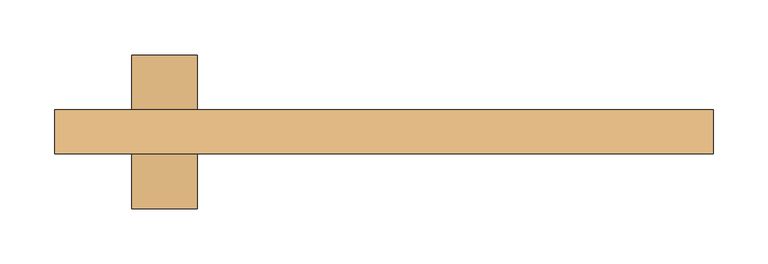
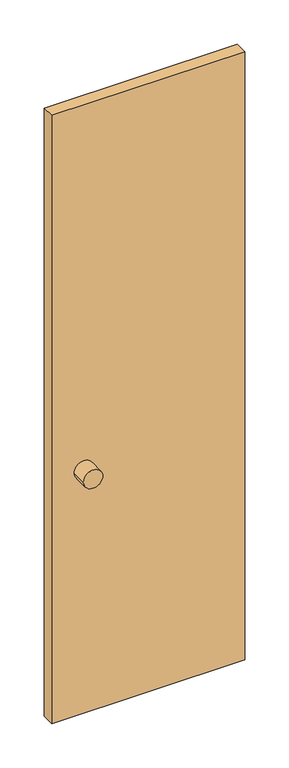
"""IFC4 building model written with IfcOpenShell, lengths in millimetres: door geometry, 営_片開き扉 : SD7 600*2000."""

from ifc_helpers import new_model, si_unit, point, frame, frame_2d, origin, origin_with_axes, place, context, project, spatial, polyline, circle_curve, trimmed, segment, composite_curve, outline, extrude, source, transform, mapped, element, save


def door_cb1f44da(model_context):
    return source(origin(), model_context, "Body", "SweptSolid", [
        extrude(outline(composite_curve([segment(trimmed(circle_curve(frame_2d((800.0, -200.0)), 30.0), [point((800.0, -170.0))], [point((800.0, -230.0))], False, "CARTESIAN"), True, "CONTINUOUS"), segment(trimmed(circle_curve(frame_2d((800.0, -200.0)), 30.0), [point((800.0, -230.0))], [point((800.0, -170.0))], False, "CARTESIAN"), True, "CONTINUOUS")], self_intersect=False)), frame((0.0, -15.0, 0.0), z_axis=(0.0, 1.0, 0.0), x_axis=(0.0, 0.0, 1.0)), (0.0, 0.0, 1.0), 50.0),
        extrude(outline(composite_curve([segment(trimmed(circle_curve(frame_2d((800.0, -200.0)), 30.0), [point((800.0, -170.0))], [point((800.0, -230.0))], False, "CARTESIAN"), True, "CONTINUOUS"), segment(trimmed(circle_curve(frame_2d((800.0, -200.0)), 30.0), [point((800.0, -230.0))], [point((800.0, -170.0))], False, "CARTESIAN"), True, "CONTINUOUS")], self_intersect=False)), frame((0.0, -105.0, 0.0), z_axis=(0.0, 1.0, 0.0), x_axis=(0.0, 0.0, 1.0)), (0.0, 0.0, 1.0), 50.0),
        extrude(outline(polyline([(-300.0, -15.0), (300.0, -15.0), (300.0, -55.0), (-300.0, -55.0), (-300.0, -15.0)])), origin_with_axes(), (0.0, 0.0, 1.0), 2000.0),
    ])


if __name__ == "__main__":
    model = new_model("IFC4")
    model_context = context("Model", 3, world=origin())
    ifc_project = project(units=[si_unit("LENGTHUNIT", "METRE", prefix="MILLI")], contexts=[model_context])
    site = spatial("IfcSite", under=ifc_project)
    building = spatial("IfcBuilding", under=site)
    placement = place(None, origin())
    door_shape = door_cb1f44da(model_context)
    element("IfcDoor", 1, ObjectType="営_片開き扉 : SD7 600*2000", at=placement, inside=building, context=model_context, shape_type="MappedRepresentation", body=[
        mapped(door_shape, transform((0.0, 0.0, 0.0), x_axis=(1.0, 0.0, 0.0), y_axis=(0.0, 1.0, 0.0), z_axis=(0.0, 0.0, 1.0))),
    ])
    save(model, "model.ifc")
